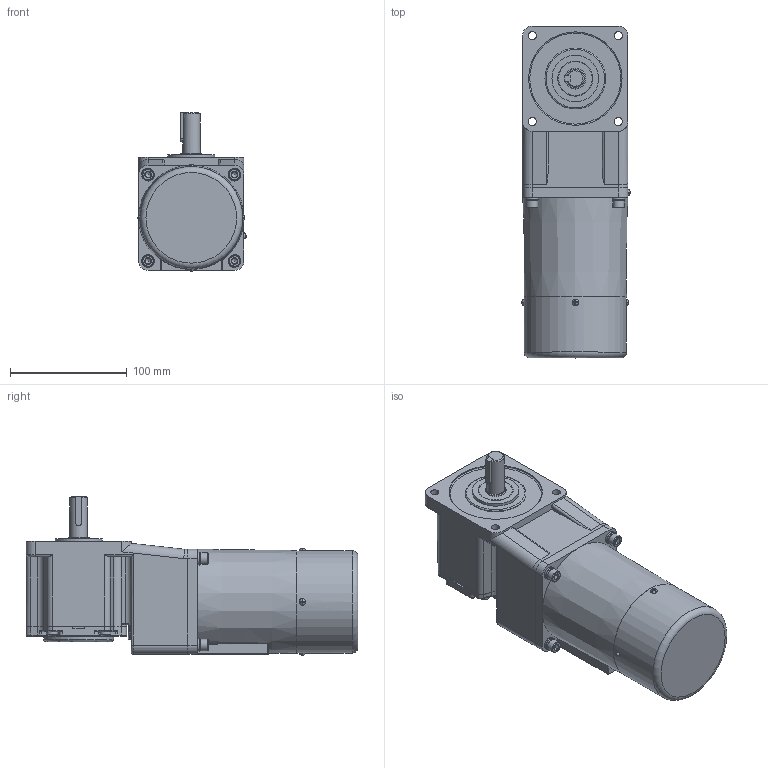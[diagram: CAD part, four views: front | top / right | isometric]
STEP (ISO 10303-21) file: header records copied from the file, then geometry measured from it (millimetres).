
FILE_DESCRIPTION(/* description */ (''),/* implementation_level */ '2;1');
FILE_NAME(/* name */ '90+中实直角-刹车-40W.stp',/* time_stamp */ '2022-11-01T13:14:48+08:00',/* author */ (''),/* organization */ (''),/* preprocessor_version */ 'ST-DEVELOPER v16.7',/* originating_system */ 'SIEMENS PLM Software NX 1899',/* authorisation */ '');
FILE_SCHEMA (('AP203_CONFIGURATION_CONTROLLED_3D_DESIGN_OF_MECHANICAL_PARTS_AND_ASSEMBLIES_MIM_LF { 1 0 10303 403 2 1 2}'));
Length unit declared in the file: millimetre
Products named in the file (1): yf1854BC0762njqu
Bounding box: 92.75 x 284 x 135.78 mm (x, y, z)
Volume: 1905490.8 mm3; surface area: 151011.8 mm2
Topology: 15 solids, 15 shells, 625 faces, 1466 edges, 892 vertices
Faces by surface type: plane 325, cylinder 185, torus 55, cone 44, bspline 8, sphere 8
Full cylindrical faces by diameter (mm): 5 x4, 5.5 x4, 5.795 x4, 6.4 x4, 7 x8, 9.5 x4, 10 x4, 11 x4, 15 x1, 18 x1, 30 x1, 40 x1, 52 x1, 60 x1, 67 x1, 76 x1, 80 x1, 86 x2, 87.6 x1
Entity records: 19137 total; most frequent: CARTESIAN_POINT 4249, DIRECTION 2857, ORIENTED_EDGE 2638, EDGE_CURVE 1319, AXIS2_PLACEMENT_3D 1103, VERTEX_POINT 850, EDGE_LOOP 767, LINE 651
